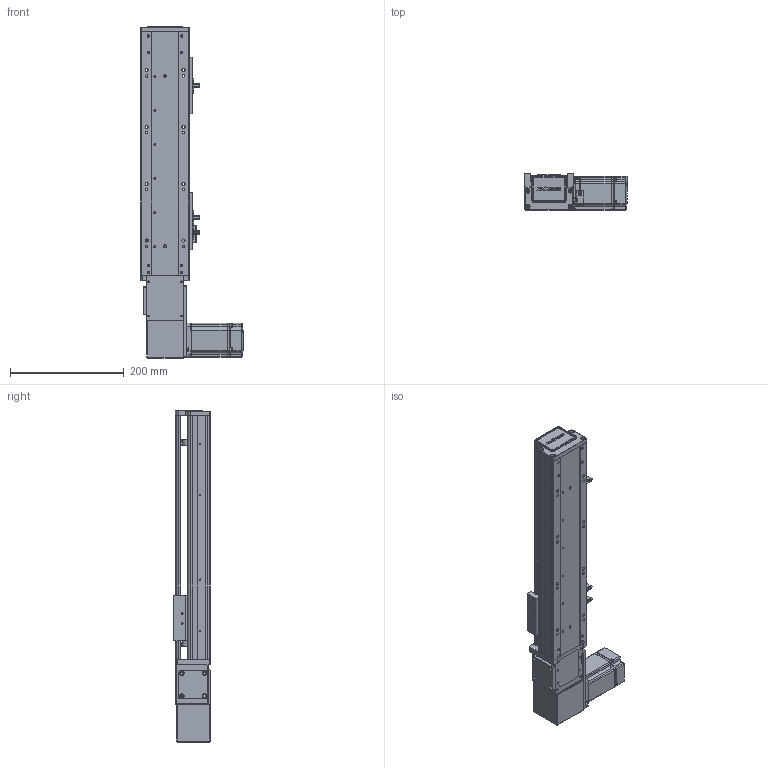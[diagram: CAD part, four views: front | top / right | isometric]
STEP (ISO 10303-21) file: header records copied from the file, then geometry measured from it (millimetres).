
FILE_DESCRIPTION (( 'STEP AP203' ), '1' );
FILE_NAME ('RY80-T-300-RK.SLDASM_250.step', '2021-03-01T02:06:27', ( '盈信电脑' ), ( '东莞市道滘镇水果街19号' ), 'SwSTEP 2.0', 'SolidWorks 2012', '' );
FILE_SCHEMA (( 'CONFIG_CONTROL_DESIGN' ));
Length unit declared in the file: millimetre
Products named in the file (20): 滅袉蝶18-10; RY100-T粣創揤踡裔; RY80-T-300-RK.SLDASM_250; RY80-T-M4蹟翐; RY80-T翋肮祭謫裔啣; RY80-T粣創揤踡輸; RY80-T肮祭謫俋欶; RY80-T萇儂假蚾啣; RY80-T-翋肮祭謫釱; RY80-T肮祭湍揤輸2; RY80-T肮祭湍揤輸1; RY80俋离覜茼え; 侂狟200W萇儂; 1; 672嫖萇羲壽假蚾釱; RY80-T-300-RK倰第奻裔啣_250; RY80-T綴裔啣; 覜茼ん672; RY80-T-300-RK倰第菁釱_250; RY80-T肮祭謫臏賑輸
Assembly tree (25 placements, depth 3):
  RY80-T-300-RK.SLDASM_250
    RY80-T-300-RK倰第菁釱_250
    RY80-T肮祭謫臏賑輸
    RY80-T-300-RK倰第奻裔啣_250
    RY80-T綴裔啣
    672嫖萇羲壽假蚾釱  x2
    覜茼ん672  x3
    RY80俋离覜茼え
    侂狟200W萇儂
      1
    RY80-T-翋肮祭謫釱
    RY80-T萇儂假蚾啣
    RY80-T肮祭湍揤輸1
    RY80-T肮祭湍揤輸2
    RY80-T粣創揤踡輸
    RY80-T-M4蹟翐  x2
    RY80-T翋肮祭謫裔啣  x2
    RY80-T肮祭謫俋欶
    滅袉蝶18-10  x2
    RY100-T粣創揤踡裔
Bounding box: 180 x 65 x 585 mm (x, y, z)
Volume: 1222009.9 mm3; surface area: 478308.6 mm2
Topology: 24 solids, 24 shells, 2359 faces, 6460 edges, 4195 vertices
Faces by surface type: plane 1308, cylinder 849, cone 146, bspline 56
Entity records: 72738 total; most frequent: CARTESIAN_POINT 16811, ORIENTED_EDGE 11364, DIRECTION 10834, EDGE_CURVE 5682, VERTEX_POINT 3736, LINE 3620, VECTOR 3620, AXIS2_PLACEMENT_3D 3607
